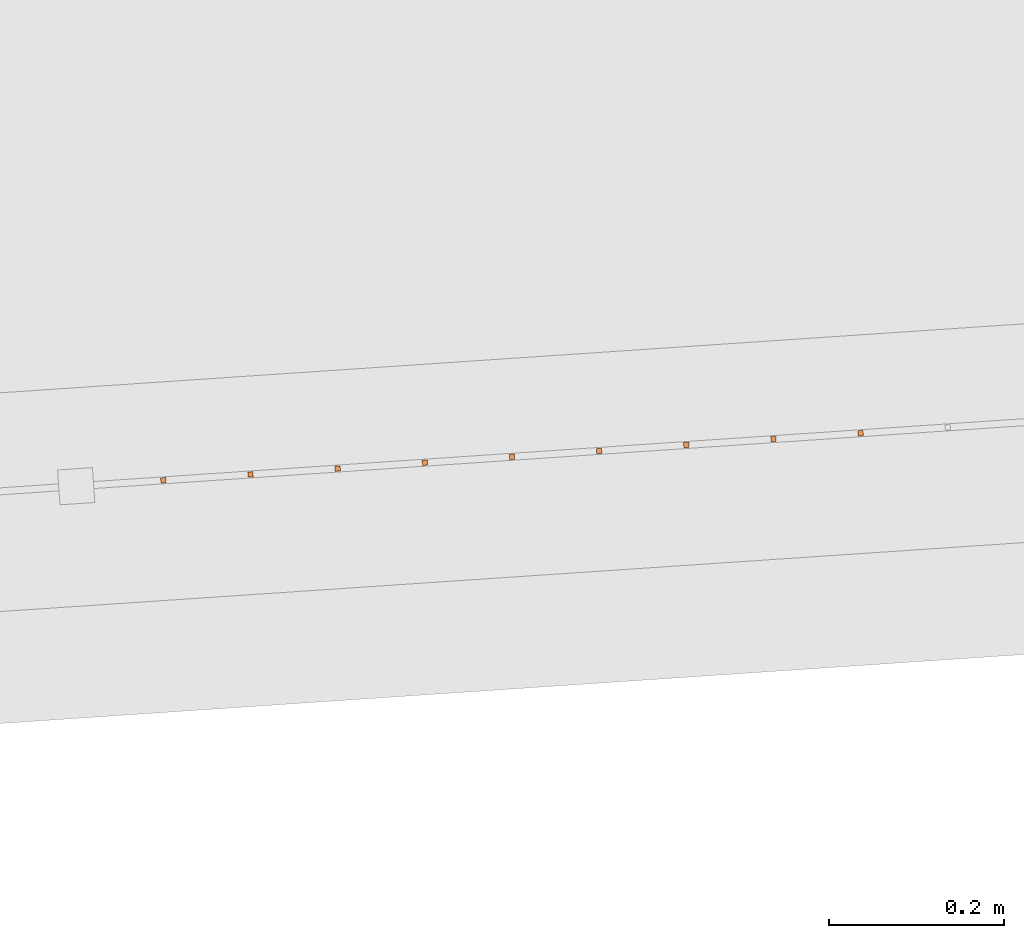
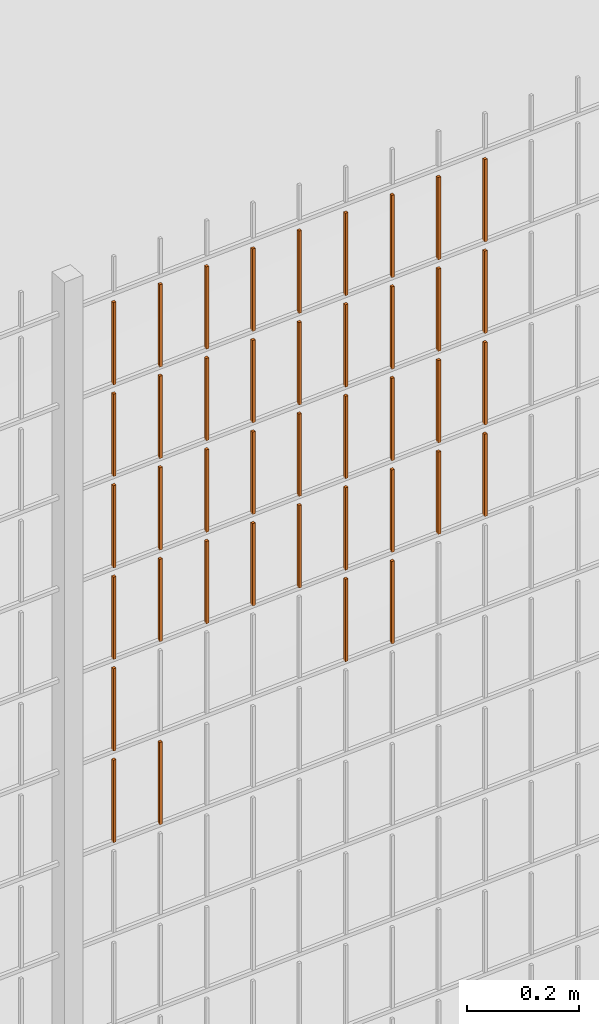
# One storey, part 168 of 1809: 41 proxies, 1 element without a shape of its own.
"""IFC2X3 building model written with IfcOpenShell, lengths in millimetres."""

import ifcopenshell
import ifcopenshell.guid

model = None  # the IFC model being written
_history = None  # IfcOwnerHistory: only IFC2X3 demands one
_inside = {}  # id of a spatial element -> (the spatial element, [elements in it])
_under = {}  # id of a project, library or spatial element -> (it, [spatial elements below it])
_declared = {}  # id of a project -> (the project, [libraries it declares])
_typed = {}  # id of a type object -> (the type object, [elements of that type])
_made_of = {}  # id of a material, layer set ... -> (it, [elements and type objects made of it])


def new_model(schema):
    """Start an empty IFC model of exactly this schema.

    Asked for "IFC4X3", IfcOpenShell would pick the latest addendum, in which some entities
    have other attributes; the version numbers below select the first issue.
    IFC2X3 requires an IfcOwnerHistory on every rooted entity: one is made here for all.
    """
    global model, _history
    if schema == "IFC4X3":
        model = ifcopenshell.file(schema_version=(4, 3, 0, 0))
    else:
        model = ifcopenshell.file(schema=schema)
    _inside.clear()
    _under.clear()
    _declared.clear()
    _typed.clear()
    _made_of.clear()
    _history = None
    if model.schema == "IFC2X3":
        org = make("IfcOrganization", Name="unknown")
        user = make(
            "IfcPersonAndOrganization",
            ThePerson=make("IfcPerson", FamilyName="unknown"),
            TheOrganization=org,
        )
        app = make(
            "IfcApplication",
            ApplicationDeveloper=org,
            Version="unknown",
            ApplicationFullName="unknown",
            ApplicationIdentifier="unknown",
        )
        _history = make(
            "IfcOwnerHistory",
            OwningUser=user,
            OwningApplication=app,
            ChangeAction="ADDED",
            CreationDate=0,
        )
    return model


def make(cls, **values):
    """One entity of the class cls with the attributes given. An attribute that is None is left unset."""
    return model.create_entity(
        cls, **{name: value for name, value in values.items() if value is not None}
    )


def entity(cls, *values):
    """Any entity or typed value of the class cls, its attributes in the order of the schema. None: left unset."""
    e = model.create_entity(cls)
    for i, value in enumerate(values):
        if value is not None:
            e[i] = value
    return e


def rooted(cls, **values):
    """An entity with a GlobalId (a new one), such as an element, a storey or a relation."""
    return make(cls, GlobalId=ifcopenshell.guid.new(), OwnerHistory=_history, **values)


def si_unit(unit_type, name, prefix=None):
    """IfcSIUnit, for example si_unit("LENGTHUNIT", "METRE", prefix="MILLI")."""
    return make("IfcSIUnit", UnitType=unit_type, Prefix=prefix, Name=name)


def converted_unit(unit_type, name, factor, base, dimensions=None, offset=None):
    """IfcConversionBasedUnit, such as the inch: factor (a typed value) times the base unit."""
    return make(
        "IfcConversionBasedUnit"
        if offset is None
        else "IfcConversionBasedUnitWithOffset",
        ConversionOffset=offset,
        Dimensions=None
        if dimensions is None
        else entity("IfcDimensionalExponents", *dimensions),
        UnitType=unit_type,
        Name=name,
        ConversionFactor=make(
            "IfcMeasureWithUnit", ValueComponent=factor, UnitComponent=base
        ),
    )


def derived_unit(unit_type, elements):
    """IfcDerivedUnit: a product of units, each with its exponent."""
    return make(
        "IfcDerivedUnit",
        Elements=[
            make("IfcDerivedUnitElement", Unit=unit, Exponent=power)
            for unit, power in elements
        ],
        UnitType=unit_type,
    )


def money_unit(currency):
    """IfcMonetaryUnit."""
    return make("IfcMonetaryUnit", Currency=currency)


def assignment(units):
    """IfcUnitAssignment: the units of a project."""
    return None if units is None else make("IfcUnitAssignment", Units=units)


def point(xyz):
    """IfcCartesianPoint."""
    return None if xyz is None else make("IfcCartesianPoint", Coordinates=xyz)


def direction(xyz):
    """IfcDirection."""
    return None if xyz is None else make("IfcDirection", DirectionRatios=xyz)


def frame(location, z_axis=None, x_axis=None):
    """IfcAxis2Placement3D, a coordinate frame: its origin and axes. An axis left out is left unset."""
    return make(
        "IfcAxis2Placement3D",
        Location=point(location),
        Axis=direction(z_axis),
        RefDirection=direction(x_axis),
    )


def origin_with_axes():
    """The frame at (0, 0, 0) with the z axis (0, 0, 1) and the x axis (1, 0, 0) written out."""
    return frame((0.0, 0.0, 0.0), z_axis=(0.0, 0.0, 1.0), x_axis=(1.0, 0.0, 0.0))


def place(relative_to, where):
    """IfcLocalPlacement: puts the frame where relative to a parent placement (None: the world)."""
    return make(
        "IfcLocalPlacement", PlacementRelTo=relative_to, RelativePlacement=where
    )


def context(
    kind, dimensions, precision=None, world=None, true_north=None, identifier=None
):
    """IfcGeometricRepresentationContext, for example the 3D "Model" context."""
    return make(
        "IfcGeometricRepresentationContext",
        ContextIdentifier=identifier,
        ContextType=kind,
        CoordinateSpaceDimension=dimensions,
        Precision=precision,
        WorldCoordinateSystem=world,
        TrueNorth=true_north,
    )


def subcontext(parent, identifier, kind, view, scale=None):
    """IfcGeometricRepresentationSubContext, for example "Body" below "Model"."""
    return make(
        "IfcGeometricRepresentationSubContext",
        ContextIdentifier=identifier,
        ContextType=kind,
        ParentContext=parent,
        TargetScale=scale,
        TargetView=view,
    )


def project(units=None, contexts=None):
    """IfcProject with its units and contexts."""
    return rooted(
        "IfcProject",
        Name="project",
        RepresentationContexts=contexts,
        UnitsInContext=assignment(units),
    )


def spatial(cls, under=None, at=None, **own):
    """A site, building, storey or space (cls), placed at a placement, below another one or the project."""
    s = rooted(cls, ObjectPlacement=at, **own)
    if under is not None:
        _under.setdefault(under.id(), (under, []))[1].append(s)
    return s


def faces_of(points, faces, orient=None, outer=None):
    """IfcFace entities. A face is a list of loops; a loop is a list of indices into points, from 0.

    orient and outer hold one flag for each loop. By default every Orientation is true, the
    first loop of a face is its IfcFaceOuterBound and the others are IfcFaceBound.
    """
    made = []
    for i, loops in enumerate(faces):
        bounds = []
        for j, loop in enumerate(loops):
            is_outer = j == 0 if outer is None else outer[i][j]
            bounds.append(
                make(
                    "IfcFaceOuterBound" if is_outer else "IfcFaceBound",
                    Bound=make("IfcPolyLoop", Polygon=[points[k] for k in loop]),
                    Orientation=True if orient is None else orient[i][j],
                )
            )
        made.append(make("IfcFace", Bounds=bounds))
    return made


def faceted_brep(points, faces, orient=None, outer=None, voids=None):
    """IfcFacetedBrep: a solid bounded by flat faces; with voids (closed shells), ...WithVoids."""
    shared = [point(p) for p in points]
    hull = make("IfcClosedShell", CfsFaces=faces_of(shared, faces, orient, outer))
    if voids is None:
        return make("IfcFacetedBrep", Outer=hull)
    return make(
        "IfcFacetedBrepWithVoids",
        Outer=hull,
        Voids=[
            make(cls, CfsFaces=faces_of(shared, fs, o, b)) for cls, fs, o, b in voids
        ],
    )


def shape(context_of_items, identifier, shape_type, items):
    """IfcShapeRepresentation: the items that make up one representation, for example the "Body"."""
    return make(
        "IfcShapeRepresentation",
        ContextOfItems=context_of_items,
        RepresentationIdentifier=identifier,
        RepresentationType=shape_type,
        Items=items,
    )


def source(mapping_origin, context_of_items, identifier, shape_type, items):
    """IfcRepresentationMap: a shape defined once, which mapped items show again and again."""
    return make(
        "IfcRepresentationMap",
        MappingOrigin=mapping_origin,
        MappedRepresentation=shape(context_of_items, identifier, shape_type, items),
    )


def transform(
    local_origin,
    x_axis=None,
    y_axis=None,
    z_axis=None,
    scale=None,
    scale2=None,
    scale3=None,
    uniform=True,
):
    """IfcCartesianTransformationOperator3D, or its non-uniform kind. x_axis, y_axis, z_axis: its Axis1, 2, 3."""
    if uniform:
        return make(
            "IfcCartesianTransformationOperator3D",
            Axis1=direction(x_axis),
            Axis2=direction(y_axis),
            LocalOrigin=point(local_origin),
            Scale=scale,
            Axis3=direction(z_axis),
        )
    return make(
        "IfcCartesianTransformationOperator3DnonUniform",
        Axis1=direction(x_axis),
        Axis2=direction(y_axis),
        LocalOrigin=point(local_origin),
        Scale=scale,
        Axis3=direction(z_axis),
        Scale2=scale2,
        Scale3=scale3,
    )


def mapped(mapping_source, mapping_target):
    """IfcMappedItem: shows the shape of a source again, moved by a transform."""
    return make(
        "IfcMappedItem", MappingSource=mapping_source, MappingTarget=mapping_target
    )


def material(Name=None, Category=None):
    """IfcMaterial."""
    return make("IfcMaterial", Name=Name, Category=Category)


def made_of(thing, what):
    """Note that an element or type object is made of a material, layer set ...; save() writes the relation."""
    if what is not None:
        _made_of.setdefault(what.id(), (what, []))[1].append(thing)
    return thing


def type_object(cls, material=None, **own):
    """A type object (cls), such as IfcWallType, which elements share."""
    return made_of(rooted(cls, **own), material)


def element(
    cls,
    number,
    at=None,
    inside=None,
    cuts=None,
    type_object=None,
    material=None,
    context=None,
    identifier="Body",
    shape_type=None,
    held_by="IfcProductDefinitionShape",
    body=None,
    shapes=None,
    **own,
):
    """One element of the class cls, such as IfcWall. Its Tag is "e" and its number.

    at: its placement. inside: the storey or other place that contains it. cuts: it is an
    opening in that element (IfcRelVoidsElement). A single representation is given by context,
    identifier, shape_type and body (its items); several are given by shapes. held_by: the class
    of the entity that holds the representations. save() writes the other relations.
    """
    e = rooted(cls, Tag="e%d" % number, ObjectPlacement=at, **own)
    if body is not None:
        shapes = [shape(context, identifier, shape_type, body)]
    if shapes is not None:
        e.Representation = make(held_by, Representations=shapes)
    if inside is not None:
        _inside.setdefault(inside.id(), (inside, []))[1].append(e)
    if cuts is not None:
        rooted(
            "IfcRelVoidsElement", RelatingBuildingElement=cuts, RelatedOpeningElement=e
        )
    if type_object is not None:
        _typed.setdefault(type_object.id(), (type_object, []))[1].append(e)
    return made_of(e, material)


def aggregate(whole, parts):
    """IfcRelAggregates: a whole, such as a stair, and the parts it consists of."""
    return rooted("IfcRelAggregates", RelatingObject=whole, RelatedObjects=parts)


def save(model, path):
    """Write the relations noted so far, then the file.

    IfcRelAggregates (storeys below a building ...), IfcRelContainedInSpatialStructure (elements
    in a storey), IfcRelDefinesByType, IfcRelAssociatesMaterial and IfcRelDeclares: one each for
    every whole, place, type object, material and project.
    """
    for whole, parts in _under.values():
        aggregate(whole, parts)
    for where, things in _inside.values():
        rooted(
            "IfcRelContainedInSpatialStructure",
            RelatedElements=things,
            RelatingStructure=where,
        )
    for kind, things in _typed.values():
        rooted("IfcRelDefinesByType", RelatedObjects=things, RelatingType=kind)
    for what, things in _made_of.values():
        rooted("IfcRelAssociatesMaterial", RelatedObjects=things, RelatingMaterial=what)
    for by, libraries in _declared.values():
        rooted("IfcRelDeclares", RelatingContext=by, RelatedDefinitions=libraries)
    model.write(path)


model = new_model("IFC2X3")

# Units and contexts
model_context = context("Model", 3, precision=0.01, world=origin_with_axes(), true_north=direction((0.0, 1.0)))
body_context = subcontext(model_context, "Body", "Model", "MODEL_VIEW")
ifc_project = project(units=[si_unit("LENGTHUNIT", "METRE", prefix="MILLI"), si_unit("AREAUNIT", "SQUARE_METRE"), si_unit("VOLUMEUNIT", "CUBIC_METRE"), converted_unit("PLANEANGLEUNIT", "DEGREE", entity("IfcPlaneAngleMeasure", 0.0174532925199), si_unit("PLANEANGLEUNIT", "RADIAN"), dimensions=[0, 0, 0, 0, 0, 0, 0]), si_unit("SOLIDANGLEUNIT", "STERADIAN"), money_unit("EUR"), converted_unit("TIMEUNIT", "Year", entity("IfcTimeMeasure", 31556926.0), si_unit("TIMEUNIT", "SECOND"), dimensions=[0, 0, 1, 0, 0, 0, 0]), si_unit("MASSUNIT", "GRAM", prefix="KILO"), si_unit("THERMODYNAMICTEMPERATUREUNIT", "DEGREE_CELSIUS"), si_unit("LUMINOUSINTENSITYUNIT", "LUMEN"), si_unit("ENERGYUNIT", "JOULE", prefix="MEGA"), derived_unit("THERMALCONDUCTANCEUNIT", [(si_unit("POWERUNIT", "WATT"), 1), (si_unit("LENGTHUNIT", "METRE"), -1), (si_unit("THERMODYNAMICTEMPERATUREUNIT", "KELVIN"), -1)]), derived_unit("SPECIFICHEATCAPACITYUNIT", [(si_unit("ENERGYUNIT", "JOULE"), 1), (si_unit("MASSUNIT", "GRAM", prefix="KILO"), -1), (si_unit("THERMODYNAMICTEMPERATUREUNIT", "KELVIN"), -1)]), derived_unit("MASSDENSITYUNIT", [(si_unit("MASSUNIT", "GRAM", prefix="KILO"), 1), (si_unit("VOLUMEUNIT", "CUBIC_METRE"), -1)])], contexts=[model_context])

# Site, building, storey
site_placement = place(None, origin_with_axes())
site = spatial("IfcSite", under=ifc_project, at=site_placement, Name="Politse- ja Piirivalveameti ning Päästeameti ühishoone", CompositionType="ELEMENT")
building_placement = place(site_placement, origin_with_axes())
building = spatial("IfcBuilding", under=site, at=building_placement, Name="Politse- ja Piirivalveameti ning Päästeameti ühishoone", CompositionType="ELEMENT")
storey_placement = place(building_placement, origin_with_axes())
storey = spatial("IfcBuildingStorey", under=building, at=storey_placement, Name="Esimene korrus", CompositionType="ELEMENT", Elevation=0.0)

# Proxies
building_element_proxy_type_1 = type_object("IfcBuildingElementProxyType", Name="Railing Type", PredefinedType="NOTDEFINED")
proxy_1_placement = place(storey_placement, frame((89252.001212, -29183.4766571, 203.661247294), z_axis=(0.0, 0.0, 1.0), x_axis=(1.0, 0.0, 0.0)))
proxy_1 = element("IfcBuildingElementProxy", 1, at=proxy_1_placement, inside=storey, type_object=building_element_proxy_type_1, Name="PIIRDEAED")
ifc_material = material(Name="ET-03_Raud")
building_element_proxy_type_2 = type_object("IfcBuildingElementProxyType", Name="IfcBuildingElementProxy", PredefinedType="NOTDEFINED")
shared_shape_1 = source(origin_with_axes(), body_context, "Body", "Brep", [
    faceted_brep([(3.0, 3.0, -0.000752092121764), (-3.0, 3.0, -0.000752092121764), (-3.0, 3.0, 179.99926046), (3.0, 3.0, 179.99926046), (3.0, -3.0, 0.000752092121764), (-3.0, -3.0, 0.000752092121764), (-3.0, -3.0, 180.000764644), (3.0, -3.0, 180.000764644)], [[[0, 1, 2, 3]], [[0, 4, 5, 1]], [[1, 5, 6, 2]], [[3, 2, 6, 7]], [[4, 0, 3, 7]], [[5, 4, 7, 6]]]),
])
proxy_2_placement = place(proxy_1_placement, frame((-76252.934205, -22448.372699, 1208.07441554), z_axis=(0.0, 0.0, 1.0), x_axis=(1.0, 0.0, 0.0)))
proxy_2 = element("IfcBuildingElementProxy", 2, at=proxy_2_placement, type_object=building_element_proxy_type_2, material=ifc_material, Name="BALUSTER - 001", context=body_context, shape_type="MappedRepresentation", body=[
    mapped(shared_shape_1, transform((0.0, 0.0, 0.0), x_axis=(-0.0673926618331, 0.997726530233, 0.0), y_axis=(-0.997726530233, -0.0673926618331, 0.0), z_axis=(0.0, 0.0, 1.0))),
])
proxy_3_placement = place(proxy_1_placement, frame((-76652.0248171, -22475.3297637, 1207.97413659), z_axis=(0.0, 0.0, 1.0), x_axis=(1.0, 0.0, 0.0)))
proxy_3 = element("IfcBuildingElementProxy", 3, at=proxy_3_placement, type_object=building_element_proxy_type_2, material=ifc_material, Name="BALUSTER - 001", context=body_context, shape_type="MappedRepresentation", body=[
    mapped(shared_shape_1, transform((0.0, 0.0, 0.0), x_axis=(-0.0673926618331, 0.997726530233, 0.0), y_axis=(-0.997726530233, -0.0673926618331, 0.0), z_axis=(0.0, 0.0, 1.0))),
])
proxy_4_placement = place(proxy_1_placement, frame((-76851.5701231, -22488.8082961, 1207.92399711), z_axis=(0.0, 0.0, 1.0), x_axis=(1.0, 0.0, 0.0)))
proxy_4 = element("IfcBuildingElementProxy", 4, at=proxy_4_placement, type_object=building_element_proxy_type_2, material=ifc_material, Name="BALUSTER - 001", context=body_context, shape_type="MappedRepresentation", body=[
    mapped(shared_shape_1, transform((0.0, 0.0, 0.0), x_axis=(-0.0673926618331, 0.997726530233, 0.0), y_axis=(-0.997726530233, -0.0673926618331, 0.0), z_axis=(0.0, 0.0, 1.0))),
])
proxy_5_placement = place(proxy_1_placement, frame((-76951.3427762, -22495.5475622, 1207.89892738), z_axis=(0.0, 0.0, 1.0), x_axis=(1.0, 0.0, 0.0)))
proxy_5 = element("IfcBuildingElementProxy", 5, at=proxy_5_placement, type_object=building_element_proxy_type_2, material=ifc_material, Name="BALUSTER - 001", context=body_context, shape_type="MappedRepresentation", body=[
    mapped(shared_shape_1, transform((0.0, 0.0, 0.0), x_axis=(-0.0673926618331, 0.997726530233, 0.0), y_axis=(-0.997726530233, -0.0673926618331, 0.0), z_axis=(0.0, 0.0, 1.0))),
])
shared_shape_2 = source(origin_with_axes(), body_context, "Body", "Brep", [
    faceted_brep([(3.0, 3.0, -0.000752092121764), (-3.0, 3.0, -0.000752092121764), (-3.0, 3.0, 179.99926046), (3.0, 3.0, 179.99926046), (3.0, -3.0, 0.000752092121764), (-3.0, -3.0, 0.000752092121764), (-3.0, -3.0, 180.000764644), (3.0, -3.0, 180.000764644)], [[[0, 1, 2, 3]], [[0, 4, 5, 1]], [[1, 5, 6, 2]], [[3, 2, 6, 7]], [[4, 0, 3, 7]], [[5, 4, 7, 6]]]),
])
proxy_6_placement = place(proxy_1_placement, frame((-76252.934205, -22448.372699, 1408.07441554), z_axis=(0.0, 0.0, 1.0), x_axis=(1.0, 0.0, 0.0)))
proxy_6 = element("IfcBuildingElementProxy", 6, at=proxy_6_placement, type_object=building_element_proxy_type_2, material=ifc_material, Name="BALUSTER - 001", context=body_context, shape_type="MappedRepresentation", body=[
    mapped(shared_shape_2, transform((0.0, 0.0, 0.0), x_axis=(-0.0673926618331, 0.997726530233, 0.0), y_axis=(-0.997726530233, -0.0673926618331, 0.0), z_axis=(0.0, 0.0, 1.0))),
])
proxy_7_placement = place(proxy_1_placement, frame((-76652.0248171, -22475.3297637, 1407.97413659), z_axis=(0.0, 0.0, 1.0), x_axis=(1.0, 0.0, 0.0)))
proxy_7 = element("IfcBuildingElementProxy", 7, at=proxy_7_placement, type_object=building_element_proxy_type_2, material=ifc_material, Name="BALUSTER - 001", context=body_context, shape_type="MappedRepresentation", body=[
    mapped(shared_shape_2, transform((0.0, 0.0, 0.0), x_axis=(-0.0673926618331, 0.997726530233, 0.0), y_axis=(-0.997726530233, -0.0673926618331, 0.0), z_axis=(0.0, 0.0, 1.0))),
])
proxy_8_placement = place(proxy_1_placement, frame((-76851.5701231, -22488.8082961, 1407.92399711), z_axis=(0.0, 0.0, 1.0), x_axis=(1.0, 0.0, 0.0)))
proxy_8 = element("IfcBuildingElementProxy", 8, at=proxy_8_placement, type_object=building_element_proxy_type_2, material=ifc_material, Name="BALUSTER - 001", context=body_context, shape_type="MappedRepresentation", body=[
    mapped(shared_shape_2, transform((0.0, 0.0, 0.0), x_axis=(-0.0673926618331, 0.997726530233, 0.0), y_axis=(-0.997726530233, -0.0673926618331, 0.0), z_axis=(0.0, 0.0, 1.0))),
])
proxy_9_placement = place(proxy_1_placement, frame((-76951.3427762, -22495.5475622, 1407.89892738), z_axis=(0.0, 0.0, 1.0), x_axis=(1.0, 0.0, 0.0)))
proxy_9 = element("IfcBuildingElementProxy", 9, at=proxy_9_placement, type_object=building_element_proxy_type_2, material=ifc_material, Name="BALUSTER - 001", context=body_context, shape_type="MappedRepresentation", body=[
    mapped(shared_shape_2, transform((0.0, 0.0, 0.0), x_axis=(-0.0673926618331, 0.997726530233, 0.0), y_axis=(-0.997726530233, -0.0673926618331, 0.0), z_axis=(0.0, 0.0, 1.0))),
])
proxy_10_placement = place(proxy_1_placement, frame((-76252.934205, -22448.372699, 1608.07441554), z_axis=(0.0, 0.0, 1.0), x_axis=(1.0, 0.0, 0.0)))
proxy_10 = element("IfcBuildingElementProxy", 10, at=proxy_10_placement, type_object=building_element_proxy_type_2, material=ifc_material, Name="BALUSTER - 001", context=body_context, shape_type="MappedRepresentation", body=[
    mapped(shared_shape_2, transform((0.0, 0.0, 0.0), x_axis=(-0.0673926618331, 0.997726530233, 0.0), y_axis=(-0.997726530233, -0.0673926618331, 0.0), z_axis=(0.0, 0.0, 1.0))),
])
proxy_11_placement = place(proxy_1_placement, frame((-76652.0248171, -22475.3297637, 1607.97413659), z_axis=(0.0, 0.0, 1.0), x_axis=(1.0, 0.0, 0.0)))
proxy_11 = element("IfcBuildingElementProxy", 11, at=proxy_11_placement, type_object=building_element_proxy_type_2, material=ifc_material, Name="BALUSTER - 001", context=body_context, shape_type="MappedRepresentation", body=[
    mapped(shared_shape_2, transform((0.0, 0.0, 0.0), x_axis=(-0.0673926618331, 0.997726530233, 0.0), y_axis=(-0.997726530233, -0.0673926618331, 0.0), z_axis=(0.0, 0.0, 1.0))),
])
proxy_12_placement = place(proxy_1_placement, frame((-76851.5701231, -22488.8082961, 1607.92399711), z_axis=(0.0, 0.0, 1.0), x_axis=(1.0, 0.0, 0.0)))
proxy_12 = element("IfcBuildingElementProxy", 12, at=proxy_12_placement, type_object=building_element_proxy_type_2, material=ifc_material, Name="BALUSTER - 001", context=body_context, shape_type="MappedRepresentation", body=[
    mapped(shared_shape_2, transform((0.0, 0.0, 0.0), x_axis=(-0.0673926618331, 0.997726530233, 0.0), y_axis=(-0.997726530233, -0.0673926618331, 0.0), z_axis=(0.0, 0.0, 1.0))),
])
proxy_13_placement = place(proxy_1_placement, frame((-76951.3427762, -22495.5475622, 1607.89892738), z_axis=(0.0, 0.0, 1.0), x_axis=(1.0, 0.0, 0.0)))
proxy_13 = element("IfcBuildingElementProxy", 13, at=proxy_13_placement, type_object=building_element_proxy_type_2, material=ifc_material, Name="BALUSTER - 001", context=body_context, shape_type="MappedRepresentation", body=[
    mapped(shared_shape_2, transform((0.0, 0.0, 0.0), x_axis=(-0.0673926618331, 0.997726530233, 0.0), y_axis=(-0.997726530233, -0.0673926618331, 0.0), z_axis=(0.0, 0.0, 1.0))),
])
shared_shape_3 = source(origin_with_axes(), body_context, "Body", "Brep", [
    faceted_brep([(3.0, 3.0, -0.000752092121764), (-3.0, 3.0, -0.000752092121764), (-3.0, 3.0, 179.99926046), (3.0, 3.0, 179.99926046), (3.0, -3.0, 0.000752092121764), (-3.0, -3.0, 0.000752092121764), (-3.0, -3.0, 180.000764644), (3.0, -3.0, 180.000764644)], [[[0, 1, 2, 3]], [[0, 4, 5, 1]], [[1, 5, 6, 2]], [[3, 2, 6, 7]], [[4, 0, 3, 7]], [[5, 4, 7, 6]]]),
])
proxy_14_placement = place(proxy_1_placement, frame((-77051.1154292, -22502.2868284, 1207.87385764), z_axis=(0.0, 0.0, 1.0), x_axis=(1.0, 0.0, 0.0)))
proxy_14 = element("IfcBuildingElementProxy", 14, at=proxy_14_placement, type_object=building_element_proxy_type_2, material=ifc_material, Name="BALUSTER - 001", context=body_context, shape_type="MappedRepresentation", body=[
    mapped(shared_shape_3, transform((0.0, 0.0, 0.0), x_axis=(-0.0673926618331, 0.997726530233, 0.0), y_axis=(-0.997726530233, -0.0673926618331, 0.0), z_axis=(0.0, 0.0, 1.0))),
])
proxy_15_placement = place(proxy_1_placement, frame((-76352.706858, -22455.1119651, 1808.0493458), z_axis=(0.0, 0.0, 1.0), x_axis=(1.0, 0.0, 0.0)))
proxy_15 = element("IfcBuildingElementProxy", 15, at=proxy_15_placement, type_object=building_element_proxy_type_2, material=ifc_material, Name="BALUSTER - 001", context=body_context, shape_type="MappedRepresentation", body=[
    mapped(shared_shape_3, transform((0.0, 0.0, 0.0), x_axis=(-0.0673926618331, 0.997726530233, 0.0), y_axis=(-0.997726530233, -0.0673926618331, 0.0), z_axis=(0.0, 0.0, 1.0))),
])
proxy_16_placement = place(proxy_1_placement, frame((-76652.0248171, -22475.3297637, 1807.97413659), z_axis=(0.0, 0.0, 1.0), x_axis=(1.0, 0.0, 0.0)))
proxy_16 = element("IfcBuildingElementProxy", 16, at=proxy_16_placement, type_object=building_element_proxy_type_2, material=ifc_material, Name="BALUSTER - 001", context=body_context, shape_type="MappedRepresentation", body=[
    mapped(shared_shape_3, transform((0.0, 0.0, 0.0), x_axis=(-0.0673926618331, 0.997726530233, 0.0), y_axis=(-0.997726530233, -0.0673926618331, 0.0), z_axis=(0.0, 0.0, 1.0))),
])
proxy_17_placement = place(proxy_1_placement, frame((-76851.5701231, -22488.8082961, 1807.92399711), z_axis=(0.0, 0.0, 1.0), x_axis=(1.0, 0.0, 0.0)))
proxy_17 = element("IfcBuildingElementProxy", 17, at=proxy_17_placement, type_object=building_element_proxy_type_2, material=ifc_material, Name="BALUSTER - 001", context=body_context, shape_type="MappedRepresentation", body=[
    mapped(shared_shape_3, transform((0.0, 0.0, 0.0), x_axis=(-0.0673926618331, 0.997726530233, 0.0), y_axis=(-0.997726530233, -0.0673926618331, 0.0), z_axis=(0.0, 0.0, 1.0))),
])
proxy_18_placement = place(proxy_1_placement, frame((-76951.3427762, -22495.5475622, 1807.89892738), z_axis=(0.0, 0.0, 1.0), x_axis=(1.0, 0.0, 0.0)))
proxy_18 = element("IfcBuildingElementProxy", 18, at=proxy_18_placement, type_object=building_element_proxy_type_2, material=ifc_material, Name="BALUSTER - 001", context=body_context, shape_type="MappedRepresentation", body=[
    mapped(shared_shape_3, transform((0.0, 0.0, 0.0), x_axis=(-0.0673926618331, 0.997726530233, 0.0), y_axis=(-0.997726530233, -0.0673926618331, 0.0), z_axis=(0.0, 0.0, 1.0))),
])
shared_shape_4 = source(origin_with_axes(), body_context, "Body", "Brep", [
    faceted_brep([(3.0, 3.0, -0.000752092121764), (-3.0, 3.0, -0.000752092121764), (-3.0, 3.0, 179.99926046), (3.0, 3.0, 179.99926046), (3.0, -3.0, 0.000752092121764), (-3.0, -3.0, 0.000752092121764), (-3.0, -3.0, 180.000764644), (3.0, -3.0, 180.000764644)], [[[0, 1, 2, 3]], [[0, 4, 5, 1]], [[1, 5, 6, 2]], [[3, 2, 6, 7]], [[4, 0, 3, 7]], [[5, 4, 7, 6]]]),
])
proxy_19_placement = place(proxy_1_placement, frame((-76352.706858, -22455.1119651, 1208.0493458), z_axis=(0.0, 0.0, 1.0), x_axis=(1.0, 0.0, 0.0)))
proxy_19 = element("IfcBuildingElementProxy", 19, at=proxy_19_placement, type_object=building_element_proxy_type_2, material=ifc_material, Name="BALUSTER - 001", context=body_context, shape_type="MappedRepresentation", body=[
    mapped(shared_shape_4, transform((0.0, 0.0, 0.0), x_axis=(-0.0673926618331, 0.997726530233, 0.0), y_axis=(-0.997726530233, -0.0673926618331, 0.0), z_axis=(0.0, 0.0, 1.0))),
])
proxy_20_placement = place(proxy_1_placement, frame((-76252.934205, -22448.372699, 1808.07441554), z_axis=(0.0, 0.0, 1.0), x_axis=(1.0, 0.0, 0.0)))
proxy_20 = element("IfcBuildingElementProxy", 20, at=proxy_20_placement, type_object=building_element_proxy_type_2, material=ifc_material, Name="BALUSTER - 001", context=body_context, shape_type="MappedRepresentation", body=[
    mapped(shared_shape_4, transform((0.0, 0.0, 0.0), x_axis=(-0.0673926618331, 0.997726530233, 0.0), y_axis=(-0.997726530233, -0.0673926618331, 0.0), z_axis=(0.0, 0.0, 1.0))),
])
proxy_21_placement = place(proxy_1_placement, frame((-77051.1154292, -22502.2868284, 1807.87385764), z_axis=(0.0, 0.0, 1.0), x_axis=(1.0, 0.0, 0.0)))
proxy_21 = element("IfcBuildingElementProxy", 21, at=proxy_21_placement, type_object=building_element_proxy_type_2, material=ifc_material, Name="BALUSTER - 001", context=body_context, shape_type="MappedRepresentation", body=[
    mapped(shared_shape_4, transform((0.0, 0.0, 0.0), x_axis=(-0.0673926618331, 0.997726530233, 0.0), y_axis=(-0.997726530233, -0.0673926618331, 0.0), z_axis=(0.0, 0.0, 1.0))),
])
shared_shape_5 = source(origin_with_axes(), body_context, "Body", "Brep", [
    faceted_brep([(3.0, 3.0, -0.000752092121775), (-3.0, 3.0, -0.000752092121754), (-3.0, 3.0, 179.99926046), (3.0, 3.0, 179.99926046), (3.0, -3.0, 0.000752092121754), (-3.0, -3.0, 0.000752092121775), (-3.0, -3.0, 180.000764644), (3.0, -3.0, 180.000764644)], [[[0, 1, 2, 3]], [[0, 4, 5, 1]], [[1, 5, 6, 2]], [[3, 2, 6, 7]], [[4, 0, 3, 7]], [[5, 4, 7, 6]]]),
])
proxy_22_placement = place(proxy_1_placement, frame((-76452.479511, -22461.8512313, 1208.02427606), z_axis=(0.0, 0.0, 1.0), x_axis=(1.0, 0.0, 0.0)))
proxy_22 = element("IfcBuildingElementProxy", 22, at=proxy_22_placement, type_object=building_element_proxy_type_2, material=ifc_material, Name="BALUSTER - 001", context=body_context, shape_type="MappedRepresentation", body=[
    mapped(shared_shape_5, transform((0.0, 0.0, 0.0), x_axis=(-0.0673926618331, 0.997726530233, 0.0), y_axis=(-0.997726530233, -0.0673926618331, 0.0), z_axis=(0.0, 0.0, 1.0))),
])
proxy_23_placement = place(proxy_1_placement, frame((-76552.2521641, -22468.5904975, 1807.99920633), z_axis=(0.0, 0.0, 1.0), x_axis=(1.0, 0.0, 0.0)))
proxy_23 = element("IfcBuildingElementProxy", 23, at=proxy_23_placement, type_object=building_element_proxy_type_2, material=ifc_material, Name="BALUSTER - 001", context=body_context, shape_type="MappedRepresentation", body=[
    mapped(shared_shape_5, transform((0.0, 0.0, 0.0), x_axis=(-0.0673926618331, 0.997726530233, 0.0), y_axis=(-0.997726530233, -0.0673926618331, 0.0), z_axis=(0.0, 0.0, 1.0))),
])
shared_shape_6 = source(origin_with_axes(), body_context, "Body", "Brep", [
    faceted_brep([(3.0, 3.0, -0.000752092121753), (-3.0, 3.0, -0.000752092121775), (-3.0, 3.0, 179.99926046), (3.0, 3.0, 179.99926046), (3.0, -3.0, 0.000752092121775), (-3.0, -3.0, 0.000752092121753), (-3.0, -3.0, 180.000764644), (3.0, -3.0, 180.000764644)], [[[0, 1, 2, 3]], [[0, 4, 5, 1]], [[1, 5, 6, 2]], [[3, 2, 6, 7]], [[4, 0, 3, 7]], [[5, 4, 7, 6]]]),
])
proxy_24_placement = place(proxy_1_placement, frame((-76951.3427762, -22495.5475622, 807.898927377), z_axis=(0.0, 0.0, 1.0), x_axis=(1.0, 0.0, 0.0)))
proxy_24 = element("IfcBuildingElementProxy", 24, at=proxy_24_placement, type_object=building_element_proxy_type_2, material=ifc_material, Name="BALUSTER - 001", context=body_context, shape_type="MappedRepresentation", body=[
    mapped(shared_shape_6, transform((0.0, 0.0, 0.0), x_axis=(-0.0673926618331, 0.997726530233, 0.0), y_axis=(-0.997726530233, -0.0673926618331, 0.0), z_axis=(0.0, 0.0, 1.0))),
])
shared_shape_7 = source(origin_with_axes(), body_context, "Body", "Brep", [
    faceted_brep([(3.0, 3.0, -0.000752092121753), (-3.0, 3.0, -0.000752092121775), (-3.0, 3.0, 179.99926046), (3.0, 3.0, 179.99926046), (3.0, -3.0, 0.000752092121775), (-3.0, -3.0, 0.000752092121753), (-3.0, -3.0, 180.000764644), (3.0, -3.0, 180.000764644)], [[[0, 1, 2, 3]], [[0, 4, 5, 1]], [[1, 5, 6, 2]], [[3, 2, 6, 7]], [[4, 0, 3, 7]], [[5, 4, 7, 6]]]),
])
proxy_25_placement = place(proxy_1_placement, frame((-76751.7974701, -22482.0690299, 1207.94906685), z_axis=(0.0, 0.0, 1.0), x_axis=(1.0, 0.0, 0.0)))
proxy_25 = element("IfcBuildingElementProxy", 25, at=proxy_25_placement, type_object=building_element_proxy_type_2, material=ifc_material, Name="BALUSTER - 001", context=body_context, shape_type="MappedRepresentation", body=[
    mapped(shared_shape_7, transform((0.0, 0.0, 0.0), x_axis=(-0.0673926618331, 0.997726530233, 0.0), y_axis=(-0.997726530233, -0.0673926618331, 0.0), z_axis=(0.0, 0.0, 1.0))),
])
shared_shape_8 = source(origin_with_axes(), body_context, "Body", "Brep", [
    faceted_brep([(3.0, 3.0, -0.000752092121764), (-3.0, 3.0, -0.000752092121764), (-3.0, 3.0, 179.99926046), (3.0, 3.0, 179.99926046), (3.0, -3.0, 0.000752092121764), (-3.0, -3.0, 0.000752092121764), (-3.0, -3.0, 180.000764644), (3.0, -3.0, 180.000764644)], [[[0, 1, 2, 3]], [[0, 4, 5, 1]], [[1, 5, 6, 2]], [[3, 2, 6, 7]], [[4, 0, 3, 7]], [[5, 4, 7, 6]]]),
])
proxy_26_placement = place(proxy_1_placement, frame((-76352.706858, -22455.1119651, 1408.0493458), z_axis=(0.0, 0.0, 1.0), x_axis=(1.0, 0.0, 0.0)))
proxy_26 = element("IfcBuildingElementProxy", 26, at=proxy_26_placement, type_object=building_element_proxy_type_2, material=ifc_material, Name="BALUSTER - 001", context=body_context, shape_type="MappedRepresentation", body=[
    mapped(shared_shape_8, transform((0.0, 0.0, 0.0), x_axis=(-0.0673926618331, 0.997726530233, 0.0), y_axis=(-0.997726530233, -0.0673926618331, 0.0), z_axis=(0.0, 0.0, 1.0))),
])
proxy_27_placement = place(proxy_1_placement, frame((-76352.706858, -22455.1119651, 1608.0493458), z_axis=(0.0, 0.0, 1.0), x_axis=(1.0, 0.0, 0.0)))
proxy_27 = element("IfcBuildingElementProxy", 27, at=proxy_27_placement, type_object=building_element_proxy_type_2, material=ifc_material, Name="BALUSTER - 001", context=body_context, shape_type="MappedRepresentation", body=[
    mapped(shared_shape_8, transform((0.0, 0.0, 0.0), x_axis=(-0.0673926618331, 0.997726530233, 0.0), y_axis=(-0.997726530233, -0.0673926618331, 0.0), z_axis=(0.0, 0.0, 1.0))),
])
shared_shape_9 = source(origin_with_axes(), body_context, "Body", "Brep", [
    faceted_brep([(3.0, 3.0, -0.000752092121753), (-3.0, 3.0, -0.000752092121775), (-3.0, 3.0, 179.99926046), (3.0, 3.0, 179.99926046), (3.0, -3.0, 0.000752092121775), (-3.0, -3.0, 0.000752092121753), (-3.0, -3.0, 180.000764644), (3.0, -3.0, 180.000764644)], [[[0, 1, 2, 3]], [[0, 4, 5, 1]], [[1, 5, 6, 2]], [[3, 2, 6, 7]], [[4, 0, 3, 7]], [[5, 4, 7, 6]]]),
])
proxy_28_placement = place(proxy_1_placement, frame((-76751.7974701, -22482.0690299, 1807.94906685), z_axis=(0.0, 0.0, 1.0), x_axis=(1.0, 0.0, 0.0)))
proxy_28 = element("IfcBuildingElementProxy", 28, at=proxy_28_placement, type_object=building_element_proxy_type_2, material=ifc_material, Name="BALUSTER - 001", context=body_context, shape_type="MappedRepresentation", body=[
    mapped(shared_shape_9, transform((0.0, 0.0, 0.0), x_axis=(-0.0673926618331, 0.997726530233, 0.0), y_axis=(-0.997726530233, -0.0673926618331, 0.0), z_axis=(0.0, 0.0, 1.0))),
])
shared_shape_10 = source(origin_with_axes(), body_context, "Body", "Brep", [
    faceted_brep([(3.0, 3.0, -0.000752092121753), (-3.0, 3.0, -0.000752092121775), (-3.0, 3.0, 179.99926046), (3.0, 3.0, 179.99926046), (3.0, -3.0, 0.000752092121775), (-3.0, -3.0, 0.000752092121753), (-3.0, -3.0, 180.000764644), (3.0, -3.0, 180.000764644)], [[[0, 1, 2, 3]], [[0, 4, 5, 1]], [[1, 5, 6, 2]], [[3, 2, 6, 7]], [[4, 0, 3, 7]], [[5, 4, 7, 6]]]),
])
proxy_29_placement = place(proxy_1_placement, frame((-77051.1154292, -22502.2868284, 807.87385764), z_axis=(0.0, 0.0, 1.0), x_axis=(1.0, 0.0, 0.0)))
proxy_29 = element("IfcBuildingElementProxy", 29, at=proxy_29_placement, type_object=building_element_proxy_type_2, material=ifc_material, Name="BALUSTER - 001", context=body_context, shape_type="MappedRepresentation", body=[
    mapped(shared_shape_10, transform((0.0, 0.0, 0.0), x_axis=(-0.0673926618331, 0.997726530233, 0.0), y_axis=(-0.997726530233, -0.0673926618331, 0.0), z_axis=(0.0, 0.0, 1.0))),
])
shared_shape_11 = source(origin_with_axes(), body_context, "Body", "Brep", [
    faceted_brep([(3.0, 3.0, -0.000752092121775), (-3.0, 3.0, -0.000752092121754), (-3.0, 3.0, 179.99926046), (3.0, 3.0, 179.99926046), (3.0, -3.0, 0.000752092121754), (-3.0, -3.0, 0.000752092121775), (-3.0, -3.0, 180.000764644), (3.0, -3.0, 180.000764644)], [[[0, 1, 2, 3]], [[0, 4, 5, 1]], [[1, 5, 6, 2]], [[3, 2, 6, 7]], [[4, 0, 3, 7]], [[5, 4, 7, 6]]]),
])
proxy_30_placement = place(proxy_1_placement, frame((-76452.479511, -22461.8512313, 1408.02427606), z_axis=(0.0, 0.0, 1.0), x_axis=(1.0, 0.0, 0.0)))
proxy_30 = element("IfcBuildingElementProxy", 30, at=proxy_30_placement, type_object=building_element_proxy_type_2, material=ifc_material, Name="BALUSTER - 001", context=body_context, shape_type="MappedRepresentation", body=[
    mapped(shared_shape_11, transform((0.0, 0.0, 0.0), x_axis=(-0.0673926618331, 0.997726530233, 0.0), y_axis=(-0.997726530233, -0.0673926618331, 0.0), z_axis=(0.0, 0.0, 1.0))),
])
proxy_31_placement = place(proxy_1_placement, frame((-76452.479511, -22461.8512313, 1608.02427606), z_axis=(0.0, 0.0, 1.0), x_axis=(1.0, 0.0, 0.0)))
proxy_31 = element("IfcBuildingElementProxy", 31, at=proxy_31_placement, type_object=building_element_proxy_type_2, material=ifc_material, Name="BALUSTER - 001", context=body_context, shape_type="MappedRepresentation", body=[
    mapped(shared_shape_11, transform((0.0, 0.0, 0.0), x_axis=(-0.0673926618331, 0.997726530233, 0.0), y_axis=(-0.997726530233, -0.0673926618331, 0.0), z_axis=(0.0, 0.0, 1.0))),
])
shared_shape_12 = source(origin_with_axes(), body_context, "Body", "Brep", [
    faceted_brep([(3.0, 3.0, -0.000752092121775), (-3.0, 3.0, -0.000752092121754), (-3.0, 3.0, 179.99926046), (3.0, 3.0, 179.99926046), (3.0, -3.0, 0.000752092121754), (-3.0, -3.0, 0.000752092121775), (-3.0, -3.0, 180.000764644), (3.0, -3.0, 180.000764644)], [[[0, 1, 2, 3]], [[0, 4, 5, 1]], [[1, 5, 6, 2]], [[3, 2, 6, 7]], [[4, 0, 3, 7]], [[5, 4, 7, 6]]]),
])
proxy_32_placement = place(proxy_1_placement, frame((-76452.479511, -22461.8512313, 1808.02427606), z_axis=(0.0, 0.0, 1.0), x_axis=(1.0, 0.0, 0.0)))
proxy_32 = element("IfcBuildingElementProxy", 32, at=proxy_32_placement, type_object=building_element_proxy_type_2, material=ifc_material, Name="BALUSTER - 001", context=body_context, shape_type="MappedRepresentation", body=[
    mapped(shared_shape_12, transform((0.0, 0.0, 0.0), x_axis=(-0.0673926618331, 0.997726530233, 0.0), y_axis=(-0.997726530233, -0.0673926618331, 0.0), z_axis=(0.0, 0.0, 1.0))),
])
shared_shape_13 = source(origin_with_axes(), body_context, "Body", "Brep", [
    faceted_brep([(3.0, 3.0, -0.000752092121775), (-3.0, 3.0, -0.000752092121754), (-3.0, 3.0, 179.99926046), (3.0, 3.0, 179.99926046), (3.0, -3.0, 0.000752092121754), (-3.0, -3.0, 0.000752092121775), (-3.0, -3.0, 180.000764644), (3.0, -3.0, 180.000764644)], [[[0, 1, 2, 3]], [[0, 4, 5, 1]], [[1, 5, 6, 2]], [[3, 2, 6, 7]], [[4, 0, 3, 7]], [[5, 4, 7, 6]]]),
])
proxy_33_placement = place(proxy_1_placement, frame((-76552.2521641, -22468.5904975, 1207.99920633), z_axis=(0.0, 0.0, 1.0), x_axis=(1.0, 0.0, 0.0)))
proxy_33 = element("IfcBuildingElementProxy", 33, at=proxy_33_placement, type_object=building_element_proxy_type_2, material=ifc_material, Name="BALUSTER - 001", context=body_context, shape_type="MappedRepresentation", body=[
    mapped(shared_shape_13, transform((0.0, 0.0, 0.0), x_axis=(-0.0673926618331, 0.997726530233, 0.0), y_axis=(-0.997726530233, -0.0673926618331, 0.0), z_axis=(0.0, 0.0, 1.0))),
])
shared_shape_14 = source(origin_with_axes(), body_context, "Body", "Brep", [
    faceted_brep([(3.0, 3.0, -0.000752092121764), (-3.0, 3.0, -0.000752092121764), (-3.0, 3.0, 179.99926046), (3.0, 3.0, 179.99926046), (3.0, -3.0, 0.000752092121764), (-3.0, -3.0, 0.000752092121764), (-3.0, -3.0, 180.000764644), (3.0, -3.0, 180.000764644)], [[[0, 1, 2, 3]], [[0, 4, 5, 1]], [[1, 5, 6, 2]], [[3, 2, 6, 7]], [[4, 0, 3, 7]], [[5, 4, 7, 6]]]),
])
proxy_34_placement = place(proxy_1_placement, frame((-77051.1154292, -22502.2868284, 1407.87385764), z_axis=(0.0, 0.0, 1.0), x_axis=(1.0, 0.0, 0.0)))
proxy_34 = element("IfcBuildingElementProxy", 34, at=proxy_34_placement, type_object=building_element_proxy_type_2, material=ifc_material, Name="BALUSTER - 001", context=body_context, shape_type="MappedRepresentation", body=[
    mapped(shared_shape_14, transform((0.0, 0.0, 0.0), x_axis=(-0.0673926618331, 0.997726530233, 0.0), y_axis=(-0.997726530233, -0.0673926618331, 0.0), z_axis=(0.0, 0.0, 1.0))),
])
proxy_35_placement = place(proxy_1_placement, frame((-77051.1154292, -22502.2868284, 1607.87385764), z_axis=(0.0, 0.0, 1.0), x_axis=(1.0, 0.0, 0.0)))
proxy_35 = element("IfcBuildingElementProxy", 35, at=proxy_35_placement, type_object=building_element_proxy_type_2, material=ifc_material, Name="BALUSTER - 001", context=body_context, shape_type="MappedRepresentation", body=[
    mapped(shared_shape_14, transform((0.0, 0.0, 0.0), x_axis=(-0.0673926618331, 0.997726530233, 0.0), y_axis=(-0.997726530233, -0.0673926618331, 0.0), z_axis=(0.0, 0.0, 1.0))),
])
shared_shape_15 = source(origin_with_axes(), body_context, "Body", "Brep", [
    faceted_brep([(3.0, 3.0, -0.000752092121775), (-3.0, 3.0, -0.000752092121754), (-3.0, 3.0, 179.99926046), (3.0, 3.0, 179.99926046), (3.0, -3.0, 0.000752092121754), (-3.0, -3.0, 0.000752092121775), (-3.0, -3.0, 180.000764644), (3.0, -3.0, 180.000764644)], [[[0, 1, 2, 3]], [[0, 4, 5, 1]], [[1, 5, 6, 2]], [[3, 2, 6, 7]], [[4, 0, 3, 7]], [[5, 4, 7, 6]]]),
])
proxy_36_placement = place(proxy_1_placement, frame((-76552.2521641, -22468.5904975, 1407.99920633), z_axis=(0.0, 0.0, 1.0), x_axis=(1.0, 0.0, 0.0)))
proxy_36 = element("IfcBuildingElementProxy", 36, at=proxy_36_placement, type_object=building_element_proxy_type_2, material=ifc_material, Name="BALUSTER - 001", context=body_context, shape_type="MappedRepresentation", body=[
    mapped(shared_shape_15, transform((0.0, 0.0, 0.0), x_axis=(-0.0673926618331, 0.997726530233, 0.0), y_axis=(-0.997726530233, -0.0673926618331, 0.0), z_axis=(0.0, 0.0, 1.0))),
])
proxy_37_placement = place(proxy_1_placement, frame((-76552.2521641, -22468.5904975, 1607.99920633), z_axis=(0.0, 0.0, 1.0), x_axis=(1.0, 0.0, 0.0)))
proxy_37 = element("IfcBuildingElementProxy", 37, at=proxy_37_placement, type_object=building_element_proxy_type_2, material=ifc_material, Name="BALUSTER - 001", context=body_context, shape_type="MappedRepresentation", body=[
    mapped(shared_shape_15, transform((0.0, 0.0, 0.0), x_axis=(-0.0673926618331, 0.997726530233, 0.0), y_axis=(-0.997726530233, -0.0673926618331, 0.0), z_axis=(0.0, 0.0, 1.0))),
])
shared_shape_16 = source(origin_with_axes(), body_context, "Body", "Brep", [
    faceted_brep([(3.0, 3.0, -0.000752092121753), (-3.0, 3.0, -0.000752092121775), (-3.0, 3.0, 179.99926046), (3.0, 3.0, 179.99926046), (3.0, -3.0, 0.000752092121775), (-3.0, -3.0, 0.000752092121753), (-3.0, -3.0, 180.000764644), (3.0, -3.0, 180.000764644)], [[[0, 1, 2, 3]], [[0, 4, 5, 1]], [[1, 5, 6, 2]], [[3, 2, 6, 7]], [[4, 0, 3, 7]], [[5, 4, 7, 6]]]),
])
proxy_38_placement = place(proxy_1_placement, frame((-76751.7974701, -22482.0690299, 1407.94906685), z_axis=(0.0, 0.0, 1.0), x_axis=(1.0, 0.0, 0.0)))
proxy_38 = element("IfcBuildingElementProxy", 38, at=proxy_38_placement, type_object=building_element_proxy_type_2, material=ifc_material, Name="BALUSTER - 001", context=body_context, shape_type="MappedRepresentation", body=[
    mapped(shared_shape_16, transform((0.0, 0.0, 0.0), x_axis=(-0.0673926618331, 0.997726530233, 0.0), y_axis=(-0.997726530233, -0.0673926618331, 0.0), z_axis=(0.0, 0.0, 1.0))),
])
proxy_39_placement = place(proxy_1_placement, frame((-76751.7974701, -22482.0690299, 1607.94906685), z_axis=(0.0, 0.0, 1.0), x_axis=(1.0, 0.0, 0.0)))
proxy_39 = element("IfcBuildingElementProxy", 39, at=proxy_39_placement, type_object=building_element_proxy_type_2, material=ifc_material, Name="BALUSTER - 001", context=body_context, shape_type="MappedRepresentation", body=[
    mapped(shared_shape_16, transform((0.0, 0.0, 0.0), x_axis=(-0.0673926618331, 0.997726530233, 0.0), y_axis=(-0.997726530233, -0.0673926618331, 0.0), z_axis=(0.0, 0.0, 1.0))),
])
shared_shape_17 = source(origin_with_axes(), body_context, "Body", "Brep", [
    faceted_brep([(3.0, 3.0, -0.000752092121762), (-3.0, 3.0, -0.000752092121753), (-3.00000000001, 2.99999999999, 179.99926046), (2.99999999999, 2.99999999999, 179.99926046), (3.0, -3.0, 0.000752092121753), (-3.0, -3.0, 0.000752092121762), (-3.00000000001, -3.00000000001, 180.000764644), (2.99999999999, -3.00000000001, 180.000764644)], [[[0, 1, 2, 3]], [[0, 4, 5, 1]], [[1, 5, 6, 2]], [[3, 2, 6, 7]], [[4, 0, 3, 7]], [[5, 4, 7, 6]]]),
])
proxy_40_placement = place(proxy_1_placement, frame((-76452.479511, -22461.8512313, 1008.02427606), z_axis=(0.0, 0.0, 1.0), x_axis=(1.0, 0.0, 0.0)))
proxy_40 = element("IfcBuildingElementProxy", 40, at=proxy_40_placement, type_object=building_element_proxy_type_2, material=ifc_material, Name="BALUSTER - 001", context=body_context, shape_type="MappedRepresentation", body=[
    mapped(shared_shape_17, transform((0.0, 0.0, 0.0), x_axis=(-0.0673926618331, 0.997726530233, 0.0), y_axis=(-0.997726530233, -0.0673926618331, 0.0), z_axis=(0.0, 0.0, 1.0))),
])
proxy_41_placement = place(proxy_1_placement, frame((-77051.1154292, -22502.2868284, 1007.87385764), z_axis=(0.0, 0.0, 1.0), x_axis=(1.0, 0.0, 0.0)))
proxy_41 = element("IfcBuildingElementProxy", 41, at=proxy_41_placement, type_object=building_element_proxy_type_2, material=ifc_material, Name="BALUSTER - 001", context=body_context, shape_type="MappedRepresentation", body=[
    mapped(shared_shape_17, transform((0.0, 0.0, 0.0), x_axis=(-0.0673926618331, 0.997726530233, 0.0), y_axis=(-0.997726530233, -0.0673926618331, 0.0), z_axis=(0.0, 0.0, 1.0))),
])
shared_shape_18 = source(origin_with_axes(), body_context, "Body", "Brep", [
    faceted_brep([(3.0, 3.0, -0.000752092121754), (-3.0, 3.0, -0.000752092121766), (-3.00000000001, 3.00000000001, 179.99926046), (2.99999999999, 3.00000000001, 179.99926046), (3.0, -3.0, 0.000752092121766), (-3.0, -3.0, 0.000752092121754), (-3.00000000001, -2.99999999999, 180.000764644), (2.99999999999, -2.99999999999, 180.000764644)], [[[0, 1, 2, 3]], [[0, 4, 5, 1]], [[1, 5, 6, 2]], [[3, 2, 6, 7]], [[4, 0, 3, 7]], [[5, 4, 7, 6]]]),
])
proxy_42_placement = place(proxy_1_placement, frame((-76552.2521641, -22468.5904975, 1007.99920633), z_axis=(0.0, 0.0, 1.0), x_axis=(1.0, 0.0, 0.0)))
proxy_42 = element("IfcBuildingElementProxy", 42, at=proxy_42_placement, type_object=building_element_proxy_type_2, material=ifc_material, Name="BALUSTER - 001", context=body_context, shape_type="MappedRepresentation", body=[
    mapped(shared_shape_18, transform((0.0, 0.0, 0.0), x_axis=(-0.0673926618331, 0.997726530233, 0.0), y_axis=(-0.997726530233, -0.0673926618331, 0.0), z_axis=(0.0, 0.0, 1.0))),
])
aggregate(proxy_1, [proxy_24, proxy_29, proxy_40, proxy_42, proxy_41, proxy_2, proxy_19, proxy_22, proxy_33, proxy_3, proxy_25, proxy_4, proxy_5, proxy_14, proxy_6, proxy_26, proxy_30, proxy_36, proxy_7, proxy_38, proxy_8, proxy_9, proxy_34, proxy_10, proxy_27, proxy_31, proxy_37, proxy_11, proxy_39, proxy_12, proxy_13, proxy_35, proxy_20, proxy_15, proxy_32, proxy_23, proxy_16, proxy_28, proxy_17, proxy_18, proxy_21])

save(model, "model.ifc")
